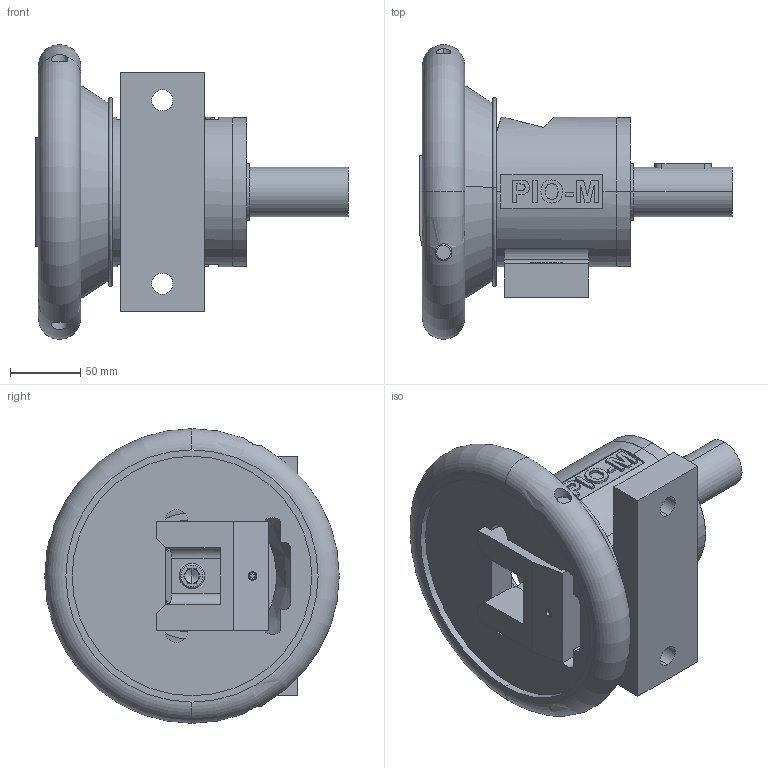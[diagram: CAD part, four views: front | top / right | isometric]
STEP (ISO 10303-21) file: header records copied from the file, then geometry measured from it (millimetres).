
FILE_DESCRIPTION (( 'STEP AP203' ), '1' );
FILE_NAME ('²Õ¦X¥óPIO3540.STEP', '2007-11-30T08:13:19', ( 'TIGER-XP' ), ( '888TIGER' ), 'SwSTEP 2.0', 'SolidWorks 2007', '' );
FILE_SCHEMA (( 'CONFIG_CONTROL_DESIGN' ));
Length unit declared in the file: millimetre
Products named in the file (15): 鋼珠_預設; 38DP_預設; 後蓋軸38_預設; 組合件PIO3540; Basic External Retaining Ring_amR40_B27.7M - 3AM1-40; 35-1FL-SP_預設; Socket Set Screw Flat Point_AMM6_B18.3.6M - M6 x 1.0 x 10 Hex Socket Flat Pt. SS --C; Socket Head Cap Screw_AMM12_B18.3.1M - 12 x 1.75 x 20 Hex SHCS -- 20NHX; 35ST菱４０-3Ba_預設; Radial Ball Bearing_68_SKF6208_SKF - 6208 - 12,DE,AC,12_68; 圓盤38_預設; Flat Head Screw_AM_B18.6.7M - M6 x 1.0 x 16 Type I Cross Recessed FHMS --16S; Basic Internal Retaining Ring_amR82_B27.7M - 3BM1-82; 鍵_預設; 軸心40W_預設
Assembly tree (18 placements, depth 2):
  組合件PIO3540
    Socket Set Screw Flat Point_AMM6_B18.3.6M - M6 x 1.0 x 10 Hex Socket Flat Pt. SS --C
    Basic External Retaining Ring_amR40_B27.7M - 3AM1-40
    Flat Head Screw_AM_B18.6.7M - M6 x 1.0 x 16 Type I Cross Recessed FHMS --16S  x4
    35ST菱４０-3Ba_預設
    Socket Head Cap Screw_AMM12_B18.3.1M - 12 x 1.75 x 20 Hex SHCS -- 20NHX
    Radial Ball Bearing_68_SKF6208_SKF - 6208 - 12,DE,AC,12_68  x2
    35-1FL-SP_預設
    軸心40W_預設
    圓盤38_預設
    38DP_預設
    鋼珠_預設
    後蓋軸38_預設
    Basic Internal Retaining Ring_amR82_B27.7M - 3BM1-82
    鍵_預設
Bounding box: 222 x 208.95 x 209 mm (x, y, z)
Volume: 1835189.2 mm3; surface area: 367064.9 mm2
Topology: 18 solids, 18 shells, 1160 faces, 3218 edges, 2072 vertices
Faces by surface type: plane 322, cylinder 285, cone 240, sphere 196, torus 100, bspline 17
Entity records: 29646 total; most frequent: CARTESIAN_POINT 10472, ORIENTED_EDGE 3730, DIRECTION 3642, EDGE_CURVE 1865, AXIS2_PLACEMENT_3D 1455, VERTEX_POINT 1217, EDGE_LOOP 794, CIRCLE 760
